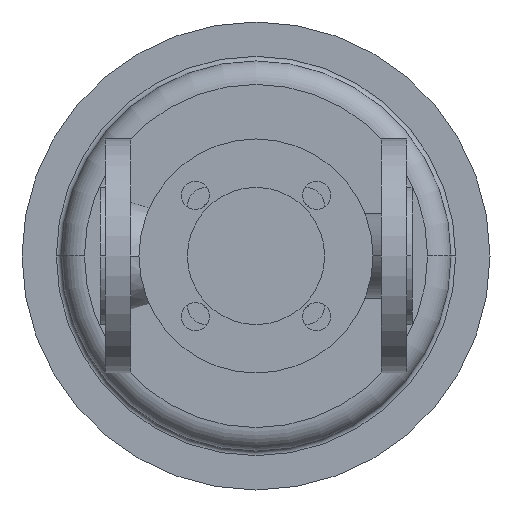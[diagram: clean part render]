
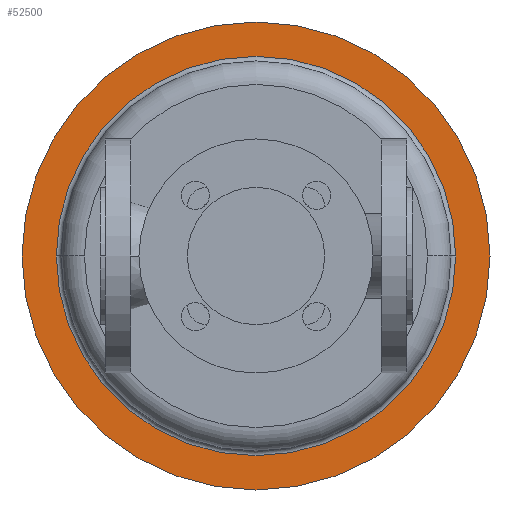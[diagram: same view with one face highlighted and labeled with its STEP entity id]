
A CAD part, front view. The second image highlights one B-rep face of the part: STEP entity #52500.
In plain terms, the highlighted planar face has unit normal (0, -1, 0).
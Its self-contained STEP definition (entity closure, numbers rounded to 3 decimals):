
#37900=CARTESIAN_POINT('',(250.,452.3,0.));
#37910=VERTEX_POINT('',#37900);
#37940=CARTESIAN_POINT('',(100.,452.3,0.));
#37950=DIRECTION('',(0.,1.,0.));
#37960=DIRECTION('',(1.,0.,0.));
#37970=AXIS2_PLACEMENT_3D('',#37940,#37950,#37960);
#37980=CIRCLE('',#37970,150.);
#37990=CARTESIAN_POINT('',(-50.,452.3,0.));
#38000=VERTEX_POINT('',#37990);
#38010=EDGE_CURVE('',#38000,#37910,#37980,.T.);
#38330=CARTESIAN_POINT('',(228.,452.3,0.));
#38340=VERTEX_POINT('',#38330);
#38370=CARTESIAN_POINT('',(100.,452.3,0.));
#38380=DIRECTION('',(0.,1.,0.));
#38390=DIRECTION('',(1.,0.,0.));
#38400=AXIS2_PLACEMENT_3D('',#38370,#38380,#38390);
#38410=CIRCLE('',#38400,128.);
#38420=CARTESIAN_POINT('',(100.,452.3,-128.));
#38430=VERTEX_POINT('',#38420);
#38440=EDGE_CURVE('',#38340,#38430,#38410,.T.);
#38460=CARTESIAN_POINT('',(-28.,452.3,0.));
#38470=VERTEX_POINT('',#38460);
#38480=EDGE_CURVE('',#38430,#38470,#38410,.T.);
#52340=CARTESIAN_POINT('',(239.,452.3,0.));
#52350=DIRECTION('',(0.,-1.,0.));
#52360=DIRECTION('',(-1.,0.,0.));
#52370=AXIS2_PLACEMENT_3D('',#52340,#52350,#52360);
#52380=PLANE('',#52370);
#52390=ORIENTED_EDGE('',*,*,#38010,.F.);
#52400=EDGE_CURVE('',#37910,#38000,#37980,.T.);
#52410=ORIENTED_EDGE('',*,*,#52400,.F.);
#52420=EDGE_LOOP('',(#52410,#52390));
#52430=FACE_OUTER_BOUND('',#52420,.T.);
#52440=EDGE_CURVE('',#38470,#38340,#38410,.T.);
#52450=ORIENTED_EDGE('',*,*,#52440,.T.);
#52460=ORIENTED_EDGE('',*,*,#38480,.T.);
#52470=ORIENTED_EDGE('',*,*,#38440,.T.);
#52480=EDGE_LOOP('',(#52470,#52460,#52450));
#52490=FACE_BOUND('',#52480,.T.);
#52500=ADVANCED_FACE('',(#52430,#52490),#52380,.T.);
